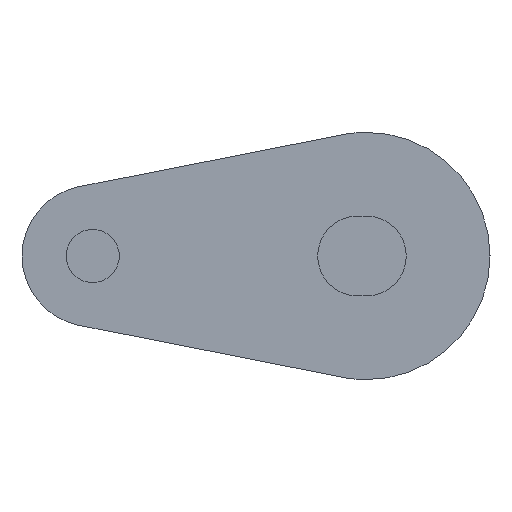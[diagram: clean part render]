
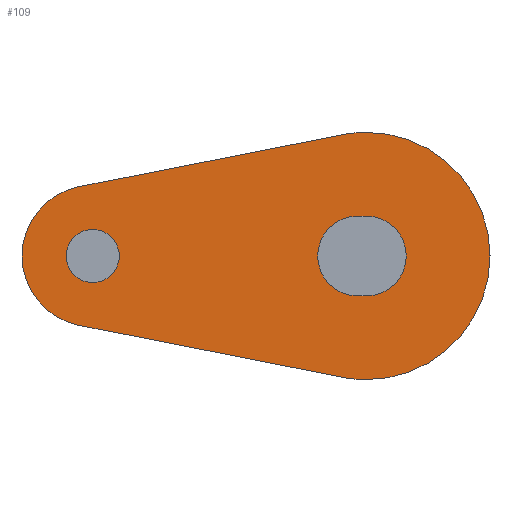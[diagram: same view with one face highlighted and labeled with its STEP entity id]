
A CAD part, left-side view. The second image highlights one B-rep face of the part: STEP entity #109.
In plain terms, the highlighted planar face has unit normal (-1, 0, 0).
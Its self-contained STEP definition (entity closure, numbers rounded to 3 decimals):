
#3 = DIRECTION ( 'NONE',  ( 0., 0., -1. ) ) ;
#4 = DIRECTION ( 'NONE',  ( 1., 0., 0. ) ) ;
#6 = CARTESIAN_POINT ( 'NONE',  ( -557.5, 0., 0. ) ) ;
#11 = DIRECTION ( 'NONE',  ( 0., -0.981, 0.194 ) ) ;
#12 = CARTESIAN_POINT ( 'NONE',  ( -557.5, 16.274, 3.924 ) ) ;
#40 = DIRECTION ( 'NONE',  ( 0., 0., -1. ) ) ;
#41 = DIRECTION ( 'NONE',  ( 1., 0., 0. ) ) ;
#44 = CARTESIAN_POINT ( 'NONE',  ( -557.5, 15.5, 0. ) ) ;
#76 = CARTESIAN_POINT ( 'NONE',  ( -557.5, 0.5, -2.26 ) ) ;
#84 = DIRECTION ( 'NONE',  ( 0., 0., -1. ) ) ;
#85 = DIRECTION ( 'NONE',  ( 1., 0., 0. ) ) ;
#86 = CARTESIAN_POINT ( 'NONE',  ( -557.5, 0., 0. ) ) ;
#96 = DIRECTION ( 'NONE',  ( 0., -1., 0. ) ) ;
#106 = CARTESIAN_POINT ( 'NONE',  ( -557.5, 0.5, 2.26 ) ) ;
#109 = ADVANCED_FACE ( 'NONE', ( #350, #302, #307 ), #1023, .T. ) ;
#163 = CIRCLE ( 'NONE', #766, 2.26 ) ;
#168 = CIRCLE ( 'NONE', #737, 2.26 ) ;
#172 = VECTOR ( 'NONE', #644, 1000. ) ;
#173 = CIRCLE ( 'NONE', #854, 1.51 ) ;
#178 = LINE ( 'NONE', #645, #172 ) ;
#179 = CIRCLE ( 'NONE', #799, 1.51 ) ;
#186 = CIRCLE ( 'NONE', #742, 7. ) ;
#210 = CARTESIAN_POINT ( 'NONE',  ( -557.5, 1.355, -6.868 ) ) ;
#211 = CARTESIAN_POINT ( 'NONE',  ( -557.5, 16.274, -3.924 ) ) ;
#214 = CARTESIAN_POINT ( 'NONE',  ( -557.5, 15.5, 1.51 ) ) ;
#224 = CARTESIAN_POINT ( 'NONE',  ( -557.5, 0., 2.26 ) ) ;
#226 = CARTESIAN_POINT ( 'NONE',  ( -557.5, 0.5, 2.26 ) ) ;
#227 = CARTESIAN_POINT ( 'NONE',  ( -557.5, 16.274, 3.924 ) ) ;
#228 = CARTESIAN_POINT ( 'NONE',  ( -557.5, 0., -2.26 ) ) ;
#230 = CARTESIAN_POINT ( 'NONE',  ( -557.5, 0.5, -2.26 ) ) ;
#235 = CARTESIAN_POINT ( 'NONE',  ( -557.5, 0., 7. ) ) ;
#240 = CARTESIAN_POINT ( 'NONE',  ( -557.5, 0., -7. ) ) ;
#259 = ORIENTED_EDGE ( 'NONE', *, *, #777, .F. ) ;
#262 = ORIENTED_EDGE ( 'NONE', *, *, #870, .T. ) ;
#302 = FACE_BOUND ( 'NONE', #328, .T. ) ;
#307 = FACE_OUTER_BOUND ( 'NONE', #327, .T. ) ;
#323 = EDGE_LOOP ( 'NONE', ( #538, #470, #473, #465 ) ) ;
#327 = EDGE_LOOP ( 'NONE', ( #259, #482, #457, #454, #479, #464 ) ) ;
#328 = EDGE_LOOP ( 'NONE', ( #402, #262 ) ) ;
#350 = FACE_BOUND ( 'NONE', #323, .T. ) ;
#391 = VECTOR ( 'NONE', #96, 1000. ) ;
#402 = ORIENTED_EDGE ( 'NONE', *, *, #875, .T. ) ;
#434 = CARTESIAN_POINT ( 'NONE',  ( -557.5, 15.5, -1.51 ) ) ;
#444 = CARTESIAN_POINT ( 'NONE',  ( -557.5, 1.355, 6.868 ) ) ;
#454 = ORIENTED_EDGE ( 'NONE', *, *, #741, .F. ) ;
#457 = ORIENTED_EDGE ( 'NONE', *, *, #810, .F. ) ;
#464 = ORIENTED_EDGE ( 'NONE', *, *, #802, .F. ) ;
#465 = ORIENTED_EDGE ( 'NONE', *, *, #812, .T. ) ;
#470 = ORIENTED_EDGE ( 'NONE', *, *, #733, .T. ) ;
#473 = ORIENTED_EDGE ( 'NONE', *, *, #883, .T. ) ;
#479 = ORIENTED_EDGE ( 'NONE', *, *, #857, .F. ) ;
#482 = ORIENTED_EDGE ( 'NONE', *, *, #881, .F. ) ;
#538 = ORIENTED_EDGE ( 'NONE', *, *, #835, .T. ) ;
#544 = CIRCLE ( 'NONE', #798, 7. ) ;
#550 = LINE ( 'NONE', #106, #391 ) ;
#570 = VECTOR ( 'NONE', #721, 1000. ) ;
#573 = LINE ( 'NONE', #12, #591 ) ;
#575 = CIRCLE ( 'NONE', #750, 7. ) ;
#578 = LINE ( 'NONE', #76, #570 ) ;
#586 = CIRCLE ( 'NONE', #832, 4. ) ;
#591 = VECTOR ( 'NONE', #11, 1000. ) ;
#629 = CARTESIAN_POINT ( 'NONE',  ( -557.5, 0.5, 0. ) ) ;
#641 = DIRECTION ( 'NONE',  ( 0., 0., -1. ) ) ;
#642 = DIRECTION ( 'NONE',  ( 1., 0., 0. ) ) ;
#644 = DIRECTION ( 'NONE',  ( 0., 0.981, 0.194 ) ) ;
#645 = CARTESIAN_POINT ( 'NONE',  ( -557.5, 1.355, -6.868 ) ) ;
#653 = CARTESIAN_POINT ( 'NONE',  ( -557.5, 0., 0. ) ) ;
#654 = DIRECTION ( 'NONE',  ( 0., 0., -1. ) ) ;
#655 = DIRECTION ( 'NONE',  ( 1., 0., 0. ) ) ;
#662 = CARTESIAN_POINT ( 'NONE',  ( -557.5, 15.5, 0. ) ) ;
#664 = DIRECTION ( 'NONE',  ( 0., 0., -1. ) ) ;
#665 = DIRECTION ( 'NONE',  ( 1., 0., 0. ) ) ;
#673 = CARTESIAN_POINT ( 'NONE',  ( -557.5, 15.5, 0. ) ) ;
#680 = DIRECTION ( 'NONE',  ( 0., 0., -1. ) ) ;
#681 = DIRECTION ( 'NONE',  ( 1., 0., 0. ) ) ;
#684 = CARTESIAN_POINT ( 'NONE',  ( -557.5, 0., 0. ) ) ;
#712 = DIRECTION ( 'NONE',  ( 0., 0., -1. ) ) ;
#713 = DIRECTION ( 'NONE',  ( 1., 0., 0. ) ) ;
#721 = DIRECTION ( 'NONE',  ( 0., 1., 0. ) ) ;
#733 = EDGE_CURVE ( 'NONE', #1000, #998, #550, .T. ) ;
#737 = AXIS2_PLACEMENT_3D ( 'NONE', #653, #642, #641 ) ;
#741 = EDGE_CURVE ( 'NONE', #1015, #1029, #544, .T. ) ;
#742 = AXIS2_PLACEMENT_3D ( 'NONE', #684, #681, #680 ) ;
#750 = AXIS2_PLACEMENT_3D ( 'NONE', #6, #4, #3 ) ;
#766 = AXIS2_PLACEMENT_3D ( 'NONE', #629, #713, #712 ) ;
#777 = EDGE_CURVE ( 'NONE', #954, #1001, #586, .T. ) ;
#798 = AXIS2_PLACEMENT_3D ( 'NONE', #86, #85, #84 ) ;
#799 = AXIS2_PLACEMENT_3D ( 'NONE', #673, #665, #664 ) ;
#802 = EDGE_CURVE ( 'NONE', #1001, #1052, #573, .T. ) ;
#810 = EDGE_CURVE ( 'NONE', #1029, #951, #575, .T. ) ;
#812 = EDGE_CURVE ( 'NONE', #1002, #1004, #578, .T. ) ;
#825 = AXIS2_PLACEMENT_3D ( 'NONE', #984, #925, #926 ) ;
#832 = AXIS2_PLACEMENT_3D ( 'NONE', #44, #41, #40 ) ;
#835 = EDGE_CURVE ( 'NONE', #1004, #1000, #163, .T. ) ;
#854 = AXIS2_PLACEMENT_3D ( 'NONE', #662, #655, #654 ) ;
#857 = EDGE_CURVE ( 'NONE', #1052, #1015, #186, .T. ) ;
#870 = EDGE_CURVE ( 'NONE', #961, #1030, #179, .T. ) ;
#875 = EDGE_CURVE ( 'NONE', #1030, #961, #173, .T. ) ;
#881 = EDGE_CURVE ( 'NONE', #951, #954, #178, .T. ) ;
#883 = EDGE_CURVE ( 'NONE', #998, #1002, #168, .T. ) ;
#925 = DIRECTION ( 'NONE',  ( -1., 0., 0. ) ) ;
#926 = DIRECTION ( 'NONE',  ( 0., 0., -1. ) ) ;
#951 = VERTEX_POINT ( 'NONE', #210 ) ;
#954 = VERTEX_POINT ( 'NONE', #211 ) ;
#961 = VERTEX_POINT ( 'NONE', #214 ) ;
#984 = CARTESIAN_POINT ( 'NONE',  ( -557.5, 15.5, 0. ) ) ;
#998 = VERTEX_POINT ( 'NONE', #224 ) ;
#1000 = VERTEX_POINT ( 'NONE', #226 ) ;
#1001 = VERTEX_POINT ( 'NONE', #227 ) ;
#1002 = VERTEX_POINT ( 'NONE', #228 ) ;
#1004 = VERTEX_POINT ( 'NONE', #230 ) ;
#1015 = VERTEX_POINT ( 'NONE', #235 ) ;
#1023 = PLANE ( 'NONE',  #825 ) ;
#1029 = VERTEX_POINT ( 'NONE', #240 ) ;
#1030 = VERTEX_POINT ( 'NONE', #434 ) ;
#1052 = VERTEX_POINT ( 'NONE', #444 ) ;
